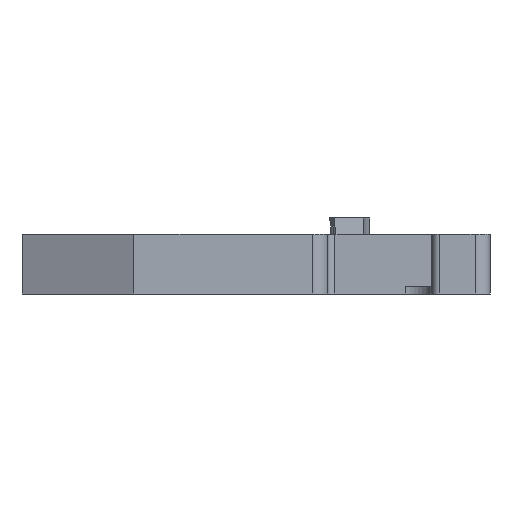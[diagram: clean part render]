
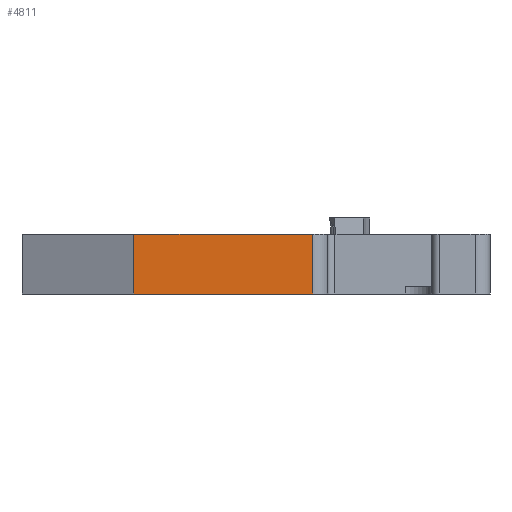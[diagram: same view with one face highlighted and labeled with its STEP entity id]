
A CAD part, left-side view. The second image highlights one B-rep face of the part: STEP entity #4811.
In plain terms, the highlighted planar face has unit normal (-1, 0, 0).
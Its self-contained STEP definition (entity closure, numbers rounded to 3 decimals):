
#456 = DIRECTION ( 'NONE',  ( 0., 0., -1. ) ) ;
#778 = DIRECTION ( 'NONE',  ( 1., 0., 0. ) ) ;
#1166 = EDGE_CURVE ( 'NONE', #11097, #27178, #20779, .T. ) ;
#3847 = LINE ( 'NONE', #17688, #29039 ) ;
#4413 = ORIENTED_EDGE ( 'NONE', *, *, #1166, .F. ) ;
#4811 = ADVANCED_FACE ( 'NONE', ( #5311 ), #12609, .F. ) ;
#5311 = FACE_OUTER_BOUND ( 'NONE', #12100, .T. ) ;
#5450 = CARTESIAN_POINT ( 'NONE',  ( -43.752, 12.585, 45.763 ) ) ;
#7689 = DIRECTION ( 'NONE',  ( 0., -1., 0. ) ) ;
#8164 = EDGE_CURVE ( 'NONE', #11097, #31007, #8930, .T. ) ;
#8291 = DIRECTION ( 'NONE',  ( 0., 0., -1. ) ) ;
#8505 = CARTESIAN_POINT ( 'NONE',  ( -43.752, 12.585, 49.763 ) ) ;
#8930 = LINE ( 'NONE', #8505, #23448 ) ;
#9690 = EDGE_CURVE ( 'NONE', #31007, #30069, #17046, .T. ) ;
#11097 = VERTEX_POINT ( 'NONE', #22573 ) ;
#12100 = EDGE_LOOP ( 'NONE', ( #27788, #29662, #4413, #21066 ) ) ;
#12377 = CARTESIAN_POINT ( 'NONE',  ( -43.752, 12.585, 45.763 ) ) ;
#12609 = PLANE ( 'NONE',  #17777 ) ;
#13448 = CARTESIAN_POINT ( 'NONE',  ( -43.752, 0.585, 45.763 ) ) ;
#15348 = CARTESIAN_POINT ( 'NONE',  ( -43.752, 12.585, 49.763 ) ) ;
#17046 = LINE ( 'NONE', #5450, #20067 ) ;
#17688 = CARTESIAN_POINT ( 'NONE',  ( -43.752, 0.585, 49.763 ) ) ;
#17777 = AXIS2_PLACEMENT_3D ( 'NONE', #15348, #778, #456 ) ;
#20067 = VECTOR ( 'NONE', #7689, 1000. ) ;
#20779 = LINE ( 'NONE', #29030, #24975 ) ;
#21066 = ORIENTED_EDGE ( 'NONE', *, *, #8164, .T. ) ;
#22573 = CARTESIAN_POINT ( 'NONE',  ( -43.752, 12.585, 49.763 ) ) ;
#22683 = CARTESIAN_POINT ( 'NONE',  ( -43.752, 0.585, 49.763 ) ) ;
#23448 = VECTOR ( 'NONE', #8291, 1000. ) ;
#24485 = EDGE_CURVE ( 'NONE', #27178, #30069, #3847, .T. ) ;
#24975 = VECTOR ( 'NONE', #31287, 1000. ) ;
#27178 = VERTEX_POINT ( 'NONE', #22683 ) ;
#27788 = ORIENTED_EDGE ( 'NONE', *, *, #9690, .T. ) ;
#29030 = CARTESIAN_POINT ( 'NONE',  ( -43.752, 12.585, 49.763 ) ) ;
#29039 = VECTOR ( 'NONE', #29298, 1000. ) ;
#29298 = DIRECTION ( 'NONE',  ( 0., 0., -1. ) ) ;
#29662 = ORIENTED_EDGE ( 'NONE', *, *, #24485, .F. ) ;
#30069 = VERTEX_POINT ( 'NONE', #13448 ) ;
#31007 = VERTEX_POINT ( 'NONE', #12377 ) ;
#31287 = DIRECTION ( 'NONE',  ( 0., -1., 0. ) ) ;
